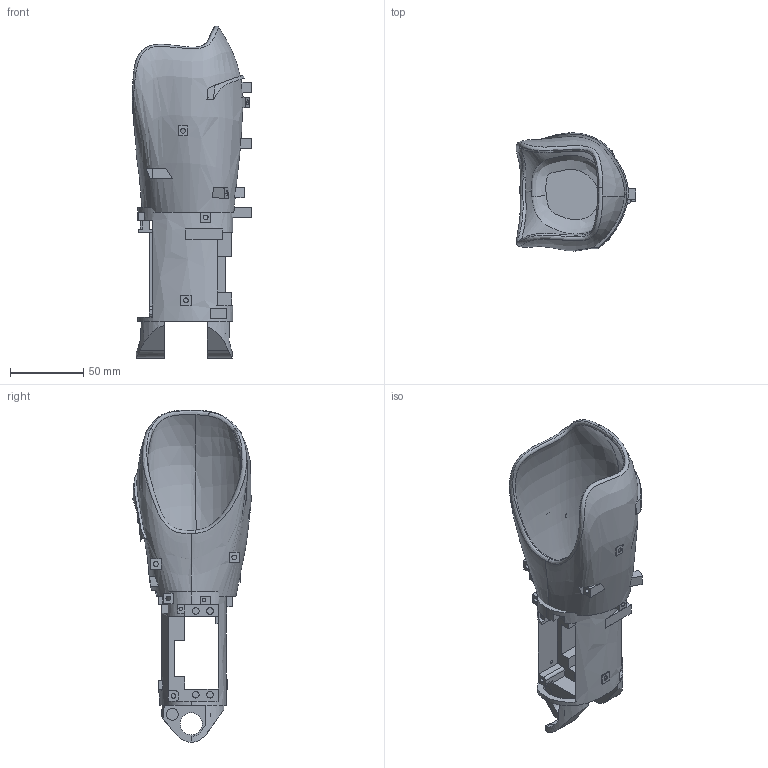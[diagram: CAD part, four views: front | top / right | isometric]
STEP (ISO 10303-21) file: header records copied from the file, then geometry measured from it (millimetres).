
FILE_DESCRIPTION (( 'STEP AP214' ), '1' );
FILE_NAME ('assembly lengan.STEP', '2025-05-25T21:19:50', ( '' ), ( '' ), 'SwSTEP 2.0', 'SolidWorks 2023', '' );
FILE_SCHEMA (( 'AUTOMOTIVE_DESIGN' ));
Length unit declared in the file: millimetre
Products named in the file (3): slot tangan Thinken 2023; telapak revisi 3; assembly lengan
Assembly tree (2 placements, depth 2):
  assembly lengan
    telapak revisi 3
    slot tangan Thinken 2023
Bounding box: 81.68 x 80.65 x 226.42 mm (x, y, z)
Volume: 192436.7 mm3; surface area: 85866.1 mm2
Topology: 2 solids, 2 shells, 371 faces, 952 edges, 623 vertices
Faces by surface type: plane 223, cylinder 92, bspline 56
Entity records: 56390 total; most frequent: CARTESIAN_POINT 47881, ORIENTED_EDGE 1904, DIRECTION 1439, EDGE_CURVE 952, VERTEX_POINT 623, VECTOR 499, LINE 499, AXIS2_PLACEMENT_3D 470
